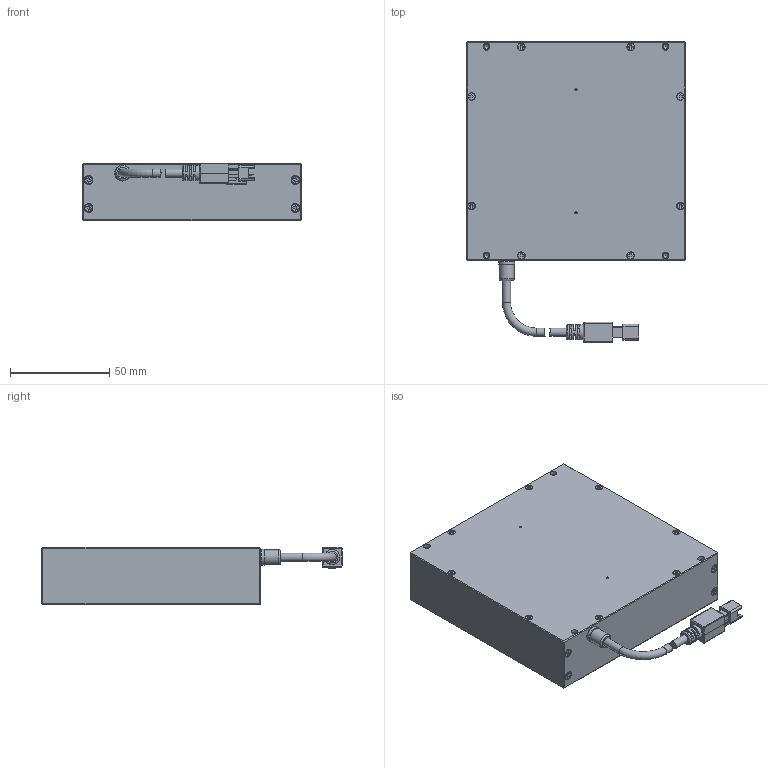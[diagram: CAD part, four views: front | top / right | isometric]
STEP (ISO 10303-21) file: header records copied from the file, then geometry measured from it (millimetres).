
FILE_DESCRIPTION (( 'STEP AP203' ), '1' );
FILE_NAME ('OPT-IFLA110110-IR-V1.0尨砩芞.STEP', '2024-12-17T07:36:01', ( '' ), ( '' ), 'SwSTEP 2.0', 'SolidWorks 2016', '' );
FILE_SCHEMA (( 'CONFIG_CONTROL_DESIGN' ));
Length unit declared in the file: millimetre
Products named in the file (1): OPT-IFLA110110-IR-V1.0尨砩芞
Bounding box: 110 x 151 x 29 mm (x, y, z)
Volume: 341926.6 mm3; surface area: 47159.9 mm2
Topology: 15 solids, 23 shells, 804 faces, 1875 edges, 1158 vertices
Faces by surface type: plane 472, cylinder 233, cone 70, bspline 20, torus 9
Full cylindrical faces by diameter (mm): 1.1 x2, 1.6 x16, 2 x16, 2.4 x16, 2.5 x4, 3.4 x4, 3.5 x1, 3.8 x16, 4.1 x4, 5.8 x1, 7.5 x2, 8 x1
Entity records: 21960 total; most frequent: CARTESIAN_POINT 4480, DIRECTION 3650, ORIENTED_EDGE 3316, EDGE_CURVE 1658, AXIS2_PLACEMENT_3D 1271, VECTOR 1108, LINE 1108, VERTEX_POINT 1103
